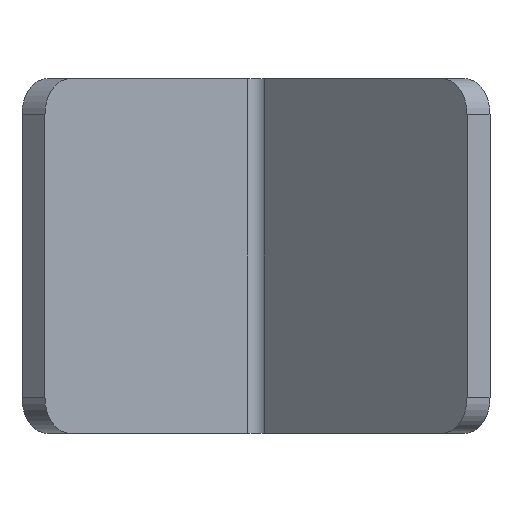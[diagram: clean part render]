
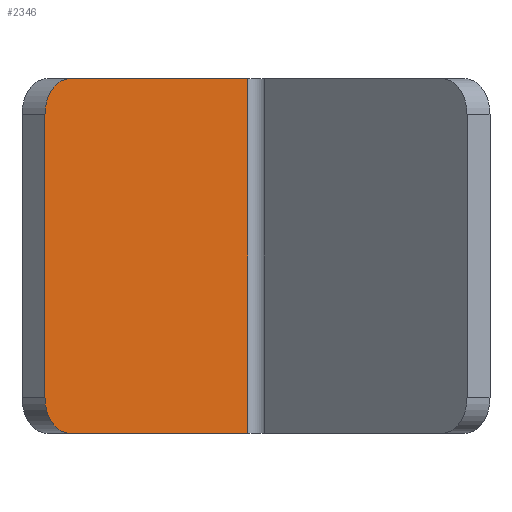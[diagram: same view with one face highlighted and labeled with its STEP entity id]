
A CAD part, front view. The second image highlights one B-rep face of the part: STEP entity #2346.
In plain terms, the highlighted planar face has unit normal (0.707, -0.707, 0) as drawn and (0, 1, 0) by its records, which use the part's own axes.
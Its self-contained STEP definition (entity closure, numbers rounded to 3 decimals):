
#161 = CARTESIAN_POINT ( 'NONE',  ( 25., 2.75, -12. ) ) ;
#182 = LINE ( 'NONE', #245, #2598 ) ;
#208 = CARTESIAN_POINT ( 'NONE',  ( 3.75, 2.75, 15. ) ) ;
#215 = CARTESIAN_POINT ( 'NONE',  ( 3.75, 2.75, 15. ) ) ;
#219 = DIRECTION ( 'NONE',  ( 0., 0., -1. ) ) ;
#245 = CARTESIAN_POINT ( 'NONE',  ( 0., 2.75, -15. ) ) ;
#287 = CARTESIAN_POINT ( 'NONE',  ( 25., 2.75, -15. ) ) ;
#314 = CARTESIAN_POINT ( 'NONE',  ( 28., 2.75, -12. ) ) ;
#323 = CARTESIAN_POINT ( 'NONE',  ( 3.75, 2.75, -15. ) ) ;
#325 = CARTESIAN_POINT ( 'NONE',  ( 25., 2.75, 15. ) ) ;
#328 = CARTESIAN_POINT ( 'NONE',  ( 28., 2.75, 12. ) ) ;
#352 = CARTESIAN_POINT ( 'NONE',  ( 28., 2.75, 15. ) ) ;
#383 = DIRECTION ( 'NONE',  ( 0., 0., 1. ) ) ;
#462 = LINE ( 'NONE', #208, #2461 ) ;
#469 = DIRECTION ( 'NONE',  ( 1., 0., 0. ) ) ;
#488 = DIRECTION ( 'NONE',  ( 0., 0., -1. ) ) ;
#558 = LINE ( 'NONE', #352, #2592 ) ;
#575 = DIRECTION ( 'NONE',  ( 0., 1., 0. ) ) ;
#712 = FACE_OUTER_BOUND ( 'NONE', #1950, .T. ) ;
#721 = DIRECTION ( 'NONE',  ( 0., 0., 1. ) ) ;
#722 = DIRECTION ( 'NONE',  ( 0., 1., 0. ) ) ;
#723 = PLANE ( 'NONE',  #2686 ) ;
#840 = DIRECTION ( 'NONE',  ( 0., 0., 1. ) ) ;
#841 = DIRECTION ( 'NONE',  ( 0., 1., 0. ) ) ;
#842 = CARTESIAN_POINT ( 'NONE',  ( 25., 2.75, 12. ) ) ;
#1042 = CARTESIAN_POINT ( 'NONE',  ( 0., 2.75, 15. ) ) ;
#1044 = DIRECTION ( 'NONE',  ( 1., 0., 0. ) ) ;
#1056 = CARTESIAN_POINT ( 'NONE',  ( 0., 2.75, 15. ) ) ;
#1105 = LINE ( 'NONE', #1042, #2668 ) ;
#1521 = VERTEX_POINT ( 'NONE', #287 ) ;
#1552 = VERTEX_POINT ( 'NONE', #314 ) ;
#1598 = VERTEX_POINT ( 'NONE', #215 ) ;
#1643 = VERTEX_POINT ( 'NONE', #323 ) ;
#1683 = VERTEX_POINT ( 'NONE', #325 ) ;
#1687 = VERTEX_POINT ( 'NONE', #328 ) ;
#1863 = ORIENTED_EDGE ( 'NONE', *, *, #2312, .F. ) ;
#1866 = ORIENTED_EDGE ( 'NONE', *, *, #2356, .T. ) ;
#1867 = ORIENTED_EDGE ( 'NONE', *, *, #2307, .T. ) ;
#1870 = ORIENTED_EDGE ( 'NONE', *, *, #2301, .F. ) ;
#1871 = ORIENTED_EDGE ( 'NONE', *, *, #2342, .T. ) ;
#1872 = ORIENTED_EDGE ( 'NONE', *, *, #2275, .T. ) ;
#1950 = EDGE_LOOP ( 'NONE', ( #1871, #1866, #1867, #1872, #1863, #1870 ) ) ;
#2275 = EDGE_CURVE ( 'NONE', #1552, #1521, #2583, .T. ) ;
#2301 = EDGE_CURVE ( 'NONE', #1598, #1643, #462, .T. ) ;
#2307 = EDGE_CURVE ( 'NONE', #1687, #1552, #558, .T. ) ;
#2312 = EDGE_CURVE ( 'NONE', #1643, #1521, #182, .T. ) ;
#2342 = EDGE_CURVE ( 'NONE', #1598, #1683, #1105, .T. ) ;
#2346 = ADVANCED_FACE ( 'NONE', ( #712 ), #723, .T. ) ;
#2356 = EDGE_CURVE ( 'NONE', #1683, #1687, #2753, .T. ) ;
#2461 = VECTOR ( 'NONE', #219, 1000. ) ;
#2544 = AXIS2_PLACEMENT_3D ( 'NONE', #161, #575, #383 ) ;
#2583 = CIRCLE ( 'NONE', #2544, 3. ) ;
#2592 = VECTOR ( 'NONE', #488, 1000. ) ;
#2598 = VECTOR ( 'NONE', #469, 1000. ) ;
#2668 = VECTOR ( 'NONE', #1044, 1000. ) ;
#2686 = AXIS2_PLACEMENT_3D ( 'NONE', #1056, #722, #721 ) ;
#2693 = AXIS2_PLACEMENT_3D ( 'NONE', #842, #841, #840 ) ;
#2753 = CIRCLE ( 'NONE', #2693, 3. ) ;
